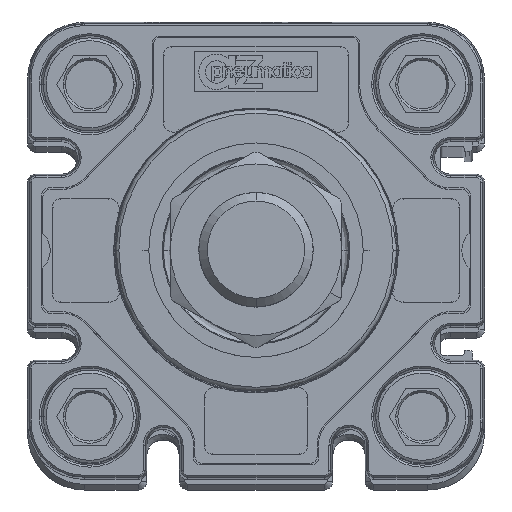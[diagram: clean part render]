
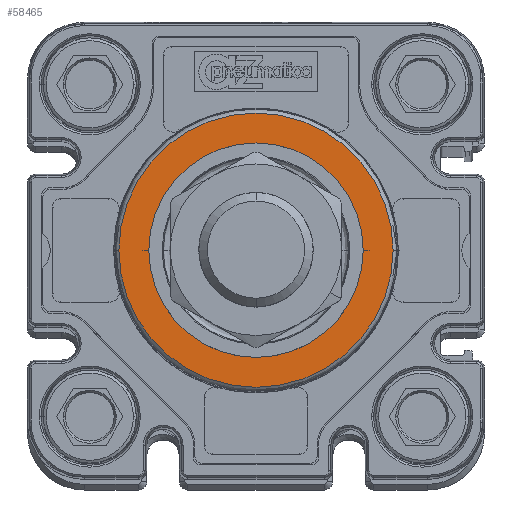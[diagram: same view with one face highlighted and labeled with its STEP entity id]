
A CAD part, top view. The second image highlights one B-rep face of the part: STEP entity #58465.
In plain terms, the highlighted planar face has unit normal (0, 0, 1) as drawn and (0, 0, -1) by its records, which use the part's own axes.
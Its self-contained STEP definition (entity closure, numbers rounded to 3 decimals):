
#259 = EDGE_CURVE ( 'NONE', #54336, #19876, #3035, .T. ) ;
#850 = CIRCLE ( 'NONE', #15541, 15. ) ;
#3035 = CIRCLE ( 'NONE', #7850, 15. ) ;
#4922 = DIRECTION ( 'NONE',  ( -1., 0., 0. ) ) ;
#5937 = DIRECTION ( 'NONE',  ( 0., 0., -1. ) ) ;
#6369 = CARTESIAN_POINT ( 'NONE',  ( 0., 0., -57.1 ) ) ;
#6607 = EDGE_CURVE ( 'NONE', #36076, #23552, #47353, .T. ) ;
#6952 = CARTESIAN_POINT ( 'NONE',  ( 19.179, 0., -57.1 ) ) ;
#7756 = DIRECTION ( 'NONE',  ( 0., 0., 1. ) ) ;
#7850 = AXIS2_PLACEMENT_3D ( 'NONE', #57274, #7756, #27300 ) ;
#15541 = AXIS2_PLACEMENT_3D ( 'NONE', #27766, #48161, #52771 ) ;
#15778 = EDGE_CURVE ( 'NONE', #23552, #36076, #41084, .T. ) ;
#19876 = VERTEX_POINT ( 'NONE', #52080 ) ;
#21951 = PLANE ( 'NONE',  #28890 ) ;
#22379 = DIRECTION ( 'NONE',  ( 0., 0., -1. ) ) ;
#22920 = ORIENTED_EDGE ( 'NONE', *, *, #259, .T. ) ;
#23552 = VERTEX_POINT ( 'NONE', #6952 ) ;
#24894 = ORIENTED_EDGE ( 'NONE', *, *, #15778, .T. ) ;
#27300 = DIRECTION ( 'NONE',  ( 1., 0., 0. ) ) ;
#27766 = CARTESIAN_POINT ( 'NONE',  ( 0., 0., -57.1 ) ) ;
#28092 = DIRECTION ( 'NONE',  ( 0., 0., -1. ) ) ;
#28890 = AXIS2_PLACEMENT_3D ( 'NONE', #52119, #22379, #32526 ) ;
#30463 = AXIS2_PLACEMENT_3D ( 'NONE', #34578, #28092, #4922 ) ;
#31072 = ORIENTED_EDGE ( 'NONE', *, *, #6607, .T. ) ;
#32526 = DIRECTION ( 'NONE',  ( -1., 0., 0. ) ) ;
#34578 = CARTESIAN_POINT ( 'NONE',  ( 0., 0., -57.1 ) ) ;
#36076 = VERTEX_POINT ( 'NONE', #39347 ) ;
#37420 = CARTESIAN_POINT ( 'NONE',  ( -15., 0., -57.1 ) ) ;
#39347 = CARTESIAN_POINT ( 'NONE',  ( -19.179, 0., -57.1 ) ) ;
#40494 = EDGE_LOOP ( 'NONE', ( #57291, #22920 ) ) ;
#41084 = CIRCLE ( 'NONE', #57063, 19.179 ) ;
#41909 = EDGE_LOOP ( 'NONE', ( #24894, #31072 ) ) ;
#45204 = DIRECTION ( 'NONE',  ( -1., 0., 0. ) ) ;
#47353 = CIRCLE ( 'NONE', #30463, 19.179 ) ;
#48161 = DIRECTION ( 'NONE',  ( 0., 0., 1. ) ) ;
#52080 = CARTESIAN_POINT ( 'NONE',  ( 15., 0., -57.1 ) ) ;
#52119 = CARTESIAN_POINT ( 'NONE',  ( 0., 0., -57.1 ) ) ;
#52666 = EDGE_CURVE ( 'NONE', #19876, #54336, #850, .T. ) ;
#52771 = DIRECTION ( 'NONE',  ( 1., 0., 0. ) ) ;
#54053 = FACE_BOUND ( 'NONE', #40494, .T. ) ;
#54336 = VERTEX_POINT ( 'NONE', #37420 ) ;
#57063 = AXIS2_PLACEMENT_3D ( 'NONE', #6369, #5937, #45204 ) ;
#57274 = CARTESIAN_POINT ( 'NONE',  ( 0., 0., -57.1 ) ) ;
#57291 = ORIENTED_EDGE ( 'NONE', *, *, #52666, .T. ) ;
#58465 = ADVANCED_FACE ( 'NONE', ( #64145, #54053 ), #21951, .T. ) ;
#64145 = FACE_OUTER_BOUND ( 'NONE', #41909, .T. ) ;
